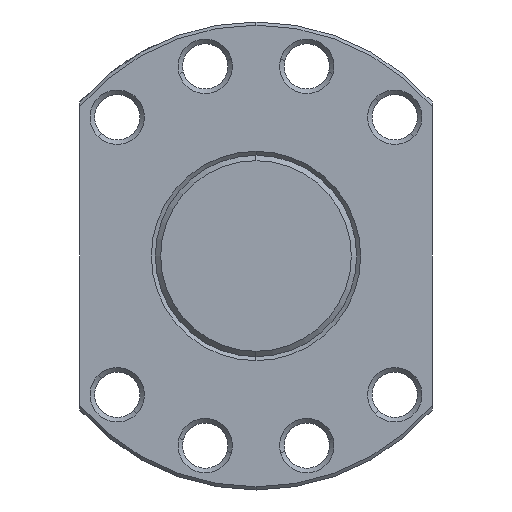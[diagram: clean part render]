
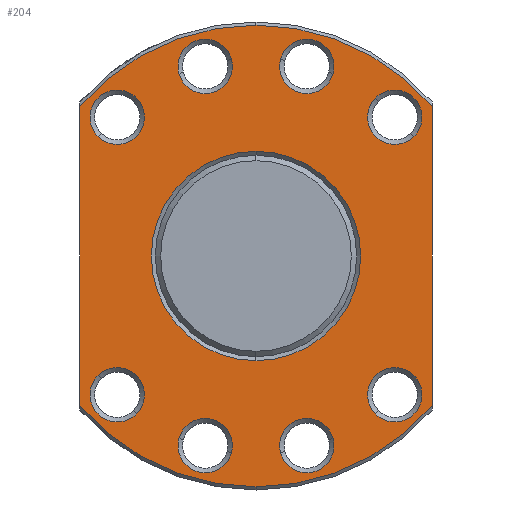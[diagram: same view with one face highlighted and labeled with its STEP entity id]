
A CAD part, left-side view. The second image highlights one B-rep face of the part: STEP entity #204.
In plain terms, the highlighted planar face has unit normal (-1, 0, 0).
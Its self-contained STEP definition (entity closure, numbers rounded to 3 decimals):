
#204=ADVANCED_FACE('',(#386,#387,#388,#389,#390,#391,#392,#393,#394,#395),#396,.T.);
#386=FACE_BOUND('',#587,.T.);
#387=FACE_OUTER_BOUND('',#588,.T.);
#388=FACE_BOUND('',#589,.T.);
#389=FACE_BOUND('',#590,.T.);
#390=FACE_BOUND('',#591,.T.);
#391=FACE_BOUND('',#592,.T.);
#392=FACE_BOUND('',#593,.T.);
#393=FACE_BOUND('',#594,.T.);
#394=FACE_BOUND('',#595,.T.);
#395=FACE_BOUND('',#596,.T.);
#396=PLANE('',#597);
#587=EDGE_LOOP('',(#1207,#1208));
#588=EDGE_LOOP('',(#1209,#1210,#1211,#1212,#1213,#1214));
#589=EDGE_LOOP('',(#1215,#1216));
#590=EDGE_LOOP('',(#1217,#1218));
#591=EDGE_LOOP('',(#1219,#1220));
#592=EDGE_LOOP('',(#1221,#1222));
#593=EDGE_LOOP('',(#1223,#1224));
#594=EDGE_LOOP('',(#1225,#1226));
#595=EDGE_LOOP('',(#1227,#1228));
#596=EDGE_LOOP('',(#1229,#1230));
#597=AXIS2_PLACEMENT_3D('',#1231,#1232,#1233);
#1207=ORIENTED_EDGE('',*,*,#1436,.T.);
#1208=ORIENTED_EDGE('',*,*,#1416,.T.);
#1209=ORIENTED_EDGE('',*,*,#1437,.T.);
#1210=ORIENTED_EDGE('',*,*,#1485,.F.);
#1211=ORIENTED_EDGE('',*,*,#1324,.F.);
#1212=ORIENTED_EDGE('',*,*,#1460,.T.);
#1213=ORIENTED_EDGE('',*,*,#1406,.F.);
#1214=ORIENTED_EDGE('',*,*,#1459,.F.);
#1215=ORIENTED_EDGE('',*,*,#1463,.T.);
#1216=ORIENTED_EDGE('',*,*,#1396,.T.);
#1217=ORIENTED_EDGE('',*,*,#1466,.T.);
#1218=ORIENTED_EDGE('',*,*,#1386,.T.);
#1219=ORIENTED_EDGE('',*,*,#1469,.T.);
#1220=ORIENTED_EDGE('',*,*,#1376,.T.);
#1221=ORIENTED_EDGE('',*,*,#1472,.T.);
#1222=ORIENTED_EDGE('',*,*,#1366,.T.);
#1223=ORIENTED_EDGE('',*,*,#1475,.T.);
#1224=ORIENTED_EDGE('',*,*,#1356,.T.);
#1225=ORIENTED_EDGE('',*,*,#1478,.T.);
#1226=ORIENTED_EDGE('',*,*,#1346,.T.);
#1227=ORIENTED_EDGE('',*,*,#1481,.T.);
#1228=ORIENTED_EDGE('',*,*,#1336,.T.);
#1229=ORIENTED_EDGE('',*,*,#1484,.T.);
#1230=ORIENTED_EDGE('',*,*,#1326,.T.);
#1231=CARTESIAN_POINT('',(25.0,0.0,22.94));
#1232=DIRECTION('',(-1.0,-0.0,0.));
#1233=DIRECTION('',(0.,0.0,-1.0));
#1324=EDGE_CURVE('',#1550,#1548,#1552,.T.);
#1326=EDGE_CURVE('',#1556,#1553,#1557,.T.);
#1336=EDGE_CURVE('',#1574,#1571,#1575,.T.);
#1346=EDGE_CURVE('',#1592,#1589,#1593,.T.);
#1356=EDGE_CURVE('',#1610,#1607,#1611,.T.);
#1366=EDGE_CURVE('',#1628,#1625,#1629,.T.);
#1376=EDGE_CURVE('',#1646,#1643,#1647,.T.);
#1386=EDGE_CURVE('',#1664,#1661,#1665,.T.);
#1396=EDGE_CURVE('',#1682,#1679,#1683,.T.);
#1406=EDGE_CURVE('',#1697,#1700,#1701,.T.);
#1416=EDGE_CURVE('',#1718,#1715,#1719,.T.);
#1436=EDGE_CURVE('',#1715,#1718,#1749,.T.);
#1437=EDGE_CURVE('',#1750,#1751,#1752,.T.);
#1459=EDGE_CURVE('',#1750,#1697,#1780,.T.);
#1460=EDGE_CURVE('',#1550,#1700,#1781,.T.);
#1463=EDGE_CURVE('',#1679,#1682,#1784,.T.);
#1466=EDGE_CURVE('',#1661,#1664,#1787,.T.);
#1469=EDGE_CURVE('',#1643,#1646,#1790,.T.);
#1472=EDGE_CURVE('',#1625,#1628,#1793,.T.);
#1475=EDGE_CURVE('',#1607,#1610,#1796,.T.);
#1478=EDGE_CURVE('',#1589,#1592,#1799,.T.);
#1481=EDGE_CURVE('',#1571,#1574,#1802,.T.);
#1484=EDGE_CURVE('',#1553,#1556,#1805,.T.);
#1485=EDGE_CURVE('',#1548,#1751,#1806,.T.);
#1548=VERTEX_POINT('',#1893);
#1550=VERTEX_POINT('',#1896);
#1552=CIRCLE('',#1907,45.88);
#1553=VERTEX_POINT('',#1908);
#1556=VERTEX_POINT('',#1912);
#1557=CIRCLE('',#1913,5.4);
#1571=VERTEX_POINT('',#1932);
#1574=VERTEX_POINT('',#1936);
#1575=CIRCLE('',#1937,5.4);
#1589=VERTEX_POINT('',#1956);
#1592=VERTEX_POINT('',#1960);
#1593=CIRCLE('',#1961,5.4);
#1607=VERTEX_POINT('',#1980);
#1610=VERTEX_POINT('',#1984);
#1611=CIRCLE('',#1985,5.4);
#1625=VERTEX_POINT('',#2004);
#1628=VERTEX_POINT('',#2008);
#1629=CIRCLE('',#2009,5.4);
#1643=VERTEX_POINT('',#2028);
#1646=VERTEX_POINT('',#2032);
#1647=CIRCLE('',#2033,5.4);
#1661=VERTEX_POINT('',#2052);
#1664=VERTEX_POINT('',#2056);
#1665=CIRCLE('',#2057,5.4);
#1679=VERTEX_POINT('',#2076);
#1682=VERTEX_POINT('',#2080);
#1683=CIRCLE('',#2081,5.4);
#1697=VERTEX_POINT('',#2100);
#1700=VERTEX_POINT('',#2104);
#1701=CIRCLE('',#2105,45.88);
#1715=VERTEX_POINT('',#2140);
#1718=VERTEX_POINT('',#2144);
#1719=CIRCLE('',#2145,20.8);
#1749=CIRCLE('',#2251,20.8);
#1750=VERTEX_POINT('',#2252);
#1751=VERTEX_POINT('',#2253);
#1752=LINE('',#2254,#2255);
#1780=CIRCLE('',#2323,45.88);
#1781=LINE('',#2324,#2325);
#1784=CIRCLE('',#2328,5.4);
#1787=CIRCLE('',#2331,5.4);
#1790=CIRCLE('',#2334,5.4);
#1793=CIRCLE('',#2337,5.4);
#1796=CIRCLE('',#2340,5.4);
#1799=CIRCLE('',#2343,5.4);
#1802=CIRCLE('',#2346,5.4);
#1805=CIRCLE('',#2349,5.4);
#1806=CIRCLE('',#2350,45.88);
#1893=CARTESIAN_POINT('',(25.0,0.,-45.88));
#1896=CARTESIAN_POINT('',(25.0,-35.0,-29.664));
#1907=AXIS2_PLACEMENT_3D('',#2421,#2422,#2423);
#1908=CARTESIAN_POINT('',(25.0,-23.759,31.396));
#1912=CARTESIAN_POINT('',(25.0,-31.396,23.759));
#1913=AXIS2_PLACEMENT_3D('',#2425,#2426,#2427);
#1932=CARTESIAN_POINT('',(25.0,-4.878,39.069));
#1936=CARTESIAN_POINT('',(25.0,-15.31,36.273));
#1937=AXIS2_PLACEMENT_3D('',#2443,#2444,#2445);
#1956=CARTESIAN_POINT('',(25.0,15.31,36.273));
#1960=CARTESIAN_POINT('',(25.0,4.878,39.069));
#1961=AXIS2_PLACEMENT_3D('',#2461,#2462,#2463);
#1980=CARTESIAN_POINT('',(25.0,31.396,23.759));
#1984=CARTESIAN_POINT('',(25.0,23.759,31.396));
#1985=AXIS2_PLACEMENT_3D('',#2479,#2480,#2481);
#2004=CARTESIAN_POINT('',(25.0,23.759,-31.396));
#2008=CARTESIAN_POINT('',(25.0,31.396,-23.759));
#2009=AXIS2_PLACEMENT_3D('',#2497,#2498,#2499);
#2028=CARTESIAN_POINT('',(25.0,4.878,-39.069));
#2032=CARTESIAN_POINT('',(25.0,15.31,-36.273));
#2033=AXIS2_PLACEMENT_3D('',#2515,#2516,#2517);
#2052=CARTESIAN_POINT('',(25.0,-15.31,-36.273));
#2056=CARTESIAN_POINT('',(25.0,-4.878,-39.069));
#2057=AXIS2_PLACEMENT_3D('',#2533,#2534,#2535);
#2076=CARTESIAN_POINT('',(25.0,-31.396,-23.759));
#2080=CARTESIAN_POINT('',(25.0,-23.759,-31.396));
#2081=AXIS2_PLACEMENT_3D('',#2551,#2552,#2553);
#2100=CARTESIAN_POINT('',(25.0,0.,45.88));
#2104=CARTESIAN_POINT('',(25.0,-35.0,29.664));
#2105=AXIS2_PLACEMENT_3D('',#2569,#2570,#2571);
#2140=CARTESIAN_POINT('',(25.0,0.0,20.8));
#2144=CARTESIAN_POINT('',(25.0,0.,-20.8));
#2145=AXIS2_PLACEMENT_3D('',#2585,#2586,#2587);
#2251=AXIS2_PLACEMENT_3D('',#2621,#2622,#2623);
#2252=CARTESIAN_POINT('',(25.0,35.0,29.664));
#2253=CARTESIAN_POINT('',(25.0,35.0,-29.664));
#2254=CARTESIAN_POINT('',(25.0,35.0,11.47));
#2255=VECTOR('',#2624,1.0);
#2323=AXIS2_PLACEMENT_3D('',#2668,#2669,#2670);
#2324=CARTESIAN_POINT('',(25.0,-35.0,11.47));
#2325=VECTOR('',#2671,1.0);
#2328=AXIS2_PLACEMENT_3D('',#2678,#2679,#2680);
#2331=AXIS2_PLACEMENT_3D('',#2687,#2688,#2689);
#2334=AXIS2_PLACEMENT_3D('',#2696,#2697,#2698);
#2337=AXIS2_PLACEMENT_3D('',#2705,#2706,#2707);
#2340=AXIS2_PLACEMENT_3D('',#2714,#2715,#2716);
#2343=AXIS2_PLACEMENT_3D('',#2723,#2724,#2725);
#2346=AXIS2_PLACEMENT_3D('',#2732,#2733,#2734);
#2349=AXIS2_PLACEMENT_3D('',#2741,#2742,#2743);
#2350=AXIS2_PLACEMENT_3D('',#2744,#2745,#2746);
#2421=CARTESIAN_POINT('',(25.0,0.0,0.0));
#2422=DIRECTION('',(1.0,0.0,-0.0));
#2423=DIRECTION('',(0.0,0.0,1.0));
#2425=CARTESIAN_POINT('',(25.0,-27.577,27.577));
#2426=DIRECTION('',(1.0,0.0,0.));
#2427=DIRECTION('',(0.,0.707,0.707));
#2443=CARTESIAN_POINT('',(25.0,-10.094,37.671));
#2444=DIRECTION('',(1.0,0.0,0.));
#2445=DIRECTION('',(0.,0.966,0.259));
#2461=CARTESIAN_POINT('',(25.0,10.094,37.671));
#2462=DIRECTION('',(1.0,0.0,0.));
#2463=DIRECTION('',(0.,0.966,-0.259));
#2479=CARTESIAN_POINT('',(25.0,27.577,27.577));
#2480=DIRECTION('',(1.0,0.0,0.));
#2481=DIRECTION('',(0.,0.707,-0.707));
#2497=CARTESIAN_POINT('',(25.0,27.577,-27.577));
#2498=DIRECTION('',(1.0,0.0,0.));
#2499=DIRECTION('',(0.,-0.707,-0.707));
#2515=CARTESIAN_POINT('',(25.0,10.094,-37.671));
#2516=DIRECTION('',(1.0,0.0,0.));
#2517=DIRECTION('',(0.,-0.966,-0.259));
#2533=CARTESIAN_POINT('',(25.0,-10.094,-37.671));
#2534=DIRECTION('',(1.0,0.0,0.));
#2535=DIRECTION('',(0.,-0.966,0.259));
#2551=CARTESIAN_POINT('',(25.0,-27.577,-27.577));
#2552=DIRECTION('',(1.0,0.0,0.));
#2553=DIRECTION('',(0.,-0.707,0.707));
#2569=CARTESIAN_POINT('',(25.0,0.0,0.0));
#2570=DIRECTION('',(1.0,0.0,-0.0));
#2571=DIRECTION('',(0.0,0.0,1.0));
#2585=CARTESIAN_POINT('',(25.0,0.0,0.0));
#2586=DIRECTION('',(1.0,0.0,0.));
#2587=DIRECTION('',(0.,0.0,1.0));
#2621=CARTESIAN_POINT('',(25.0,0.0,0.0));
#2622=DIRECTION('',(1.0,0.0,0.));
#2623=DIRECTION('',(0.,0.0,1.0));
#2624=DIRECTION('',(0.,0.0,-1.0));
#2668=CARTESIAN_POINT('',(25.0,0.0,0.0));
#2669=DIRECTION('',(1.0,0.0,-0.0));
#2670=DIRECTION('',(0.0,0.0,1.0));
#2671=DIRECTION('',(0.,0.0,1.0));
#2678=CARTESIAN_POINT('',(25.0,-27.577,-27.577));
#2679=DIRECTION('',(1.0,0.0,0.));
#2680=DIRECTION('',(0.,-0.707,0.707));
#2687=CARTESIAN_POINT('',(25.0,-10.094,-37.671));
#2688=DIRECTION('',(1.0,0.0,0.));
#2689=DIRECTION('',(0.,-0.966,0.259));
#2696=CARTESIAN_POINT('',(25.0,10.094,-37.671));
#2697=DIRECTION('',(1.0,0.0,0.));
#2698=DIRECTION('',(0.,-0.966,-0.259));
#2705=CARTESIAN_POINT('',(25.0,27.577,-27.577));
#2706=DIRECTION('',(1.0,0.0,0.));
#2707=DIRECTION('',(0.,-0.707,-0.707));
#2714=CARTESIAN_POINT('',(25.0,27.577,27.577));
#2715=DIRECTION('',(1.0,0.0,0.));
#2716=DIRECTION('',(0.,0.707,-0.707));
#2723=CARTESIAN_POINT('',(25.0,10.094,37.671));
#2724=DIRECTION('',(1.0,0.0,0.));
#2725=DIRECTION('',(0.,0.966,-0.259));
#2732=CARTESIAN_POINT('',(25.0,-10.094,37.671));
#2733=DIRECTION('',(1.0,0.0,0.));
#2734=DIRECTION('',(0.,0.966,0.259));
#2741=CARTESIAN_POINT('',(25.0,-27.577,27.577));
#2742=DIRECTION('',(1.0,0.0,0.));
#2743=DIRECTION('',(0.,0.707,0.707));
#2744=CARTESIAN_POINT('',(25.0,0.0,0.0));
#2745=DIRECTION('',(1.0,0.0,-0.0));
#2746=DIRECTION('',(0.0,0.0,1.0));
